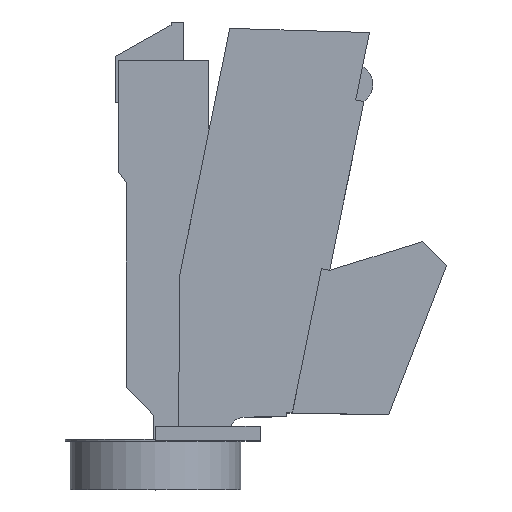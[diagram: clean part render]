
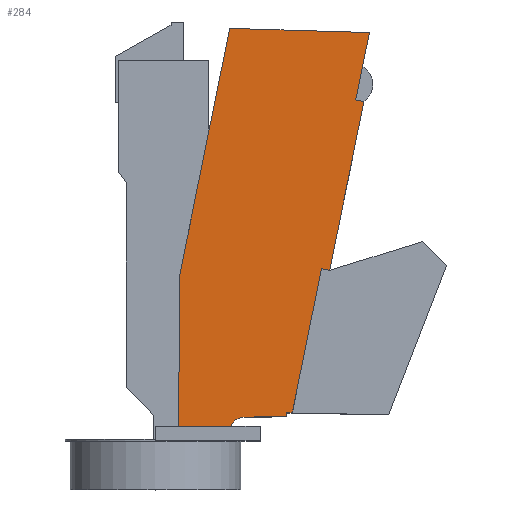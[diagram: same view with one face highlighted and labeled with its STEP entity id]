
A CAD part, top view. The second image highlights one B-rep face of the part: STEP entity #284.
In plain terms, the highlighted planar face has unit normal (0, 0, 1).
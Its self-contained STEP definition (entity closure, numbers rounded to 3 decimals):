
#6 = CARTESIAN_POINT ( 'NONE',  ( 38.88, -32.715, 12.1 ) ) ;
#28 = LINE ( 'NONE', #805, #211 ) ;
#47 = EDGE_CURVE ( 'NONE', #1052, #155, #1997, .T. ) ;
#52 = AXIS2_PLACEMENT_3D ( 'NONE', #798, #1909, #327 ) ;
#61 = EDGE_CURVE ( 'NONE', #1916, #1576, #776, .T. ) ;
#62 = CARTESIAN_POINT ( 'NONE',  ( 52.387, 34.766, 12.1 ) ) ;
#65 = VERTEX_POINT ( 'NONE', #1033 ) ;
#73 = VERTEX_POINT ( 'NONE', #1041 ) ;
#75 = CARTESIAN_POINT ( 'NONE',  ( 38.88, -32.715, 12.1 ) ) ;
#93 = EDGE_CURVE ( 'NONE', #1294, #1576, #941, .T. ) ;
#105 = CARTESIAN_POINT ( 'NONE',  ( 27.265, 46.272, 12.1 ) ) ;
#107 = LINE ( 'NONE', #1489, #1048 ) ;
#117 = ORIENTED_EDGE ( 'NONE', *, *, #938, .T. ) ;
#142 = EDGE_CURVE ( 'NONE', #73, #65, #160, .T. ) ;
#154 = EDGE_CURVE ( 'NONE', #575, #73, #28, .T. ) ;
#155 = VERTEX_POINT ( 'NONE', #973 ) ;
#160 = LINE ( 'NONE', #1567, #1081 ) ;
#188 = CARTESIAN_POINT ( 'NONE',  ( 38.88, -33.48, 12.1 ) ) ;
#211 = VECTOR ( 'NONE', #963, 1000. ) ;
#252 = DIRECTION ( 'NONE',  ( 0., 0., 1. ) ) ;
#270 = DIRECTION ( 'NONE',  ( -0.199, -0.98, 0. ) ) ;
#284 = ADVANCED_FACE ( 'NONE', ( #854 ), #1642, .T. ) ;
#290 = DIRECTION ( 'NONE',  ( 0.199, 0.98, 0. ) ) ;
#294 = CARTESIAN_POINT ( 'NONE',  ( 12., -35.5, 12.1 ) ) ;
#296 = ORIENTED_EDGE ( 'NONE', *, *, #47, .T. ) ;
#322 = DIRECTION ( 'NONE',  ( 1., -0.017, 0. ) ) ;
#327 = DIRECTION ( 'NONE',  ( 1., 0., 0. ) ) ;
#360 = ORIENTED_EDGE ( 'NONE', *, *, #1974, .T. ) ;
#373 = VECTOR ( 'NONE', #322, 1000. ) ;
#377 = VECTOR ( 'NONE', #1169, 1000. ) ;
#383 = EDGE_LOOP ( 'NONE', ( #117, #296, #360, #804, #1708, #1468, #1723, #1980, #1808, #1592, #787, #1503, #1161 ) ) ;
#403 = EDGE_CURVE ( 'NONE', #65, #858, #1833, .T. ) ;
#444 = LINE ( 'NONE', #741, #1927 ) ;
#453 = CARTESIAN_POINT ( 'NONE',  ( 46.123, -3.089, 12.1 ) ) ;
#455 = LINE ( 'NONE', #6, #373 ) ;
#508 = VECTOR ( 'NONE', #1556, 1000. ) ;
#565 = CARTESIAN_POINT ( 'NONE',  ( 30.215, -33.58, 12.1 ) ) ;
#575 = VERTEX_POINT ( 'NONE', #1143 ) ;
#597 = EDGE_CURVE ( 'NONE', #575, #1294, #1724, .T. ) ;
#630 = CARTESIAN_POINT ( 'NONE',  ( 40.107, -32.736, 12.1 ) ) ;
#654 = DIRECTION ( 'NONE',  ( 0.98, -0.199, 0. ) ) ;
#679 = DIRECTION ( 'NONE',  ( -1., 0.03, 0. ) ) ;
#694 = VERTEX_POINT ( 'NONE', #859 ) ;
#741 = CARTESIAN_POINT ( 'NONE',  ( 54.553, 38.462, 12.1 ) ) ;
#776 = LINE ( 'NONE', #1190, #1697 ) ;
#787 = ORIENTED_EDGE ( 'NONE', *, *, #154, .T. ) ;
#798 = CARTESIAN_POINT ( 'NONE',  ( 30.249, -36.58, 12.1 ) ) ;
#804 = ORIENTED_EDGE ( 'NONE', *, *, #1146, .T. ) ;
#805 = CARTESIAN_POINT ( 'NONE',  ( 54.553, 38.462, 12.1 ) ) ;
#820 = VERTEX_POINT ( 'NONE', #630 ) ;
#854 = FACE_OUTER_BOUND ( 'NONE', #383, .T. ) ;
#858 = VERTEX_POINT ( 'NONE', #1691 ) ;
#859 = CARTESIAN_POINT ( 'NONE',  ( 30.215, -33.58, 12.1 ) ) ;
#938 = EDGE_CURVE ( 'NONE', #858, #1052, #1429, .T. ) ;
#941 = LINE ( 'NONE', #1400, #508 ) ;
#944 = DIRECTION ( 'NONE',  ( -0.009, -1., 0. ) ) ;
#963 = DIRECTION ( 'NONE',  ( 0.199, 0.98, 0. ) ) ;
#973 = CARTESIAN_POINT ( 'NONE',  ( 27.451, -35.5, 12.1 ) ) ;
#1033 = CARTESIAN_POINT ( 'NONE',  ( 27.265, 46.272, 12.1 ) ) ;
#1041 = CARTESIAN_POINT ( 'NONE',  ( 55.963, 45.41, 12.1 ) ) ;
#1048 = VECTOR ( 'NONE', #1181, 1000. ) ;
#1052 = VERTEX_POINT ( 'NONE', #1644 ) ;
#1081 = VECTOR ( 'NONE', #679, 1000. ) ;
#1106 = EDGE_CURVE ( 'NONE', #1589, #1811, #107, .T. ) ;
#1130 = CARTESIAN_POINT ( 'NONE',  ( 16.715, -38.5, 12.1 ) ) ;
#1134 = CARTESIAN_POINT ( 'NONE',  ( 47.789, -3.427, 12.1 ) ) ;
#1143 = CARTESIAN_POINT ( 'NONE',  ( 53.157, 31.582, 12.1 ) ) ;
#1146 = EDGE_CURVE ( 'NONE', #694, #1589, #1162, .T. ) ;
#1161 = ORIENTED_EDGE ( 'NONE', *, *, #403, .T. ) ;
#1162 = LINE ( 'NONE', #565, #377 ) ;
#1169 = DIRECTION ( 'NONE',  ( 1., 0.012, 0. ) ) ;
#1181 = DIRECTION ( 'NONE',  ( 0., 1., 0. ) ) ;
#1190 = CARTESIAN_POINT ( 'NONE',  ( 11.108, 4.016, 12.1 ) ) ;
#1227 = DIRECTION ( 'NONE',  ( 1., 0., 0. ) ) ;
#1241 = VECTOR ( 'NONE', #654, 1000. ) ;
#1294 = VERTEX_POINT ( 'NONE', #1815 ) ;
#1308 = VECTOR ( 'NONE', #1227, 1000. ) ;
#1400 = CARTESIAN_POINT ( 'NONE',  ( 47.789, -3.427, 12.1 ) ) ;
#1429 = LINE ( 'NONE', #1130, #1802 ) ;
#1456 = EDGE_CURVE ( 'NONE', #1811, #820, #455, .T. ) ;
#1466 = DIRECTION ( 'NONE',  ( 1., 0., 0. ) ) ;
#1468 = ORIENTED_EDGE ( 'NONE', *, *, #1456, .T. ) ;
#1489 = CARTESIAN_POINT ( 'NONE',  ( 38.88, -33.48, 12.1 ) ) ;
#1503 = ORIENTED_EDGE ( 'NONE', *, *, #142, .T. ) ;
#1556 = DIRECTION ( 'NONE',  ( -0.199, -0.98, 0. ) ) ;
#1567 = CARTESIAN_POINT ( 'NONE',  ( 55.963, 45.41, 12.1 ) ) ;
#1576 = VERTEX_POINT ( 'NONE', #1134 ) ;
#1589 = VERTEX_POINT ( 'NONE', #188 ) ;
#1592 = ORIENTED_EDGE ( 'NONE', *, *, #597, .F. ) ;
#1609 = AXIS2_PLACEMENT_3D ( 'NONE', #62, #252, #1466 ) ;
#1642 = PLANE ( 'NONE',  #1609 ) ;
#1644 = CARTESIAN_POINT ( 'NONE',  ( 16.742, -35.5, 12.1 ) ) ;
#1691 = CARTESIAN_POINT ( 'NONE',  ( 17.02, -4.22, 12.1 ) ) ;
#1697 = VECTOR ( 'NONE', #1854, 1000. ) ;
#1708 = ORIENTED_EDGE ( 'NONE', *, *, #1106, .T. ) ;
#1723 = ORIENTED_EDGE ( 'NONE', *, *, #1871, .T. ) ;
#1724 = LINE ( 'NONE', #1919, #1241 ) ;
#1730 = CIRCLE ( 'NONE', #52, 3. ) ;
#1802 = VECTOR ( 'NONE', #944, 1000. ) ;
#1808 = ORIENTED_EDGE ( 'NONE', *, *, #93, .F. ) ;
#1811 = VERTEX_POINT ( 'NONE', #75 ) ;
#1815 = CARTESIAN_POINT ( 'NONE',  ( 54.823, 31.244, 12.1 ) ) ;
#1833 = LINE ( 'NONE', #105, #1960 ) ;
#1854 = DIRECTION ( 'NONE',  ( 0.98, -0.199, 0. ) ) ;
#1871 = EDGE_CURVE ( 'NONE', #820, #1916, #444, .T. ) ;
#1909 = DIRECTION ( 'NONE',  ( 0., 0., -1. ) ) ;
#1916 = VERTEX_POINT ( 'NONE', #453 ) ;
#1919 = CARTESIAN_POINT ( 'NONE',  ( 18.143, 38.686, 12.1 ) ) ;
#1927 = VECTOR ( 'NONE', #290, 1000. ) ;
#1960 = VECTOR ( 'NONE', #270, 1000. ) ;
#1974 = EDGE_CURVE ( 'NONE', #155, #694, #1730, .T. ) ;
#1980 = ORIENTED_EDGE ( 'NONE', *, *, #61, .T. ) ;
#1997 = LINE ( 'NONE', #294, #1308 ) ;
